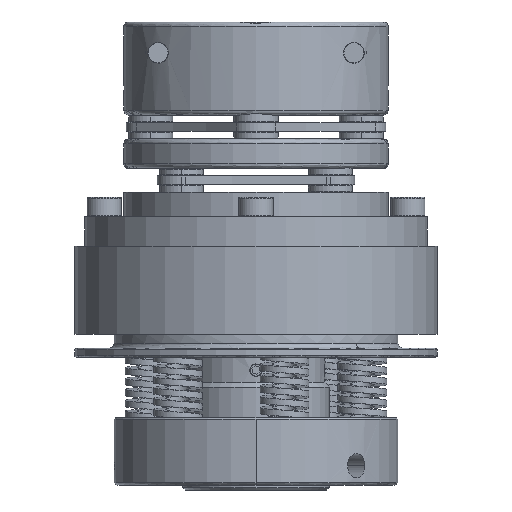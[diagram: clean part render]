
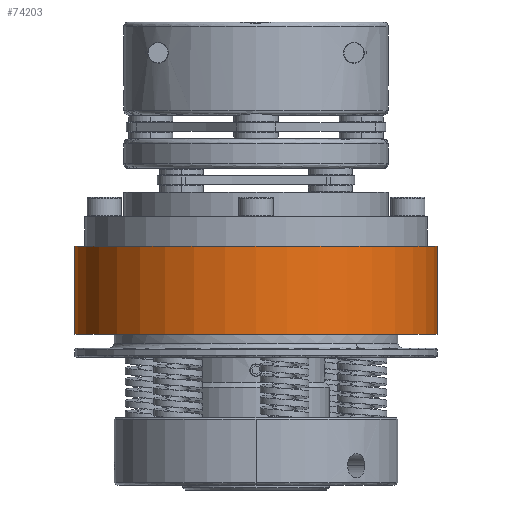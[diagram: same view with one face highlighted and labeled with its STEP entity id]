
A CAD part, front view. The second image highlights one B-rep face of the part: STEP entity #74203.
In plain terms, the highlighted cylindrical face has radius 37 mm (diameter 74 mm), a partial arc.
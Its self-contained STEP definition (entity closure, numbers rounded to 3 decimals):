
#653 = VERTEX_POINT ( 'NONE', #56680 ) ;
#733 = VECTOR ( 'NONE', #67343, 1000. ) ;
#2143 = EDGE_CURVE ( 'NONE', #22245, #653, #31579, .T. ) ;
#3413 = CARTESIAN_POINT ( 'NONE',  ( 36.58, 0.175, 28.801 ) ) ;
#5539 = AXIS2_PLACEMENT_3D ( 'NONE', #61520, #26437, #8957 ) ;
#8957 = DIRECTION ( 'NONE',  ( 1., 0., 0. ) ) ;
#9148 = LINE ( 'NONE', #43959, #733 ) ;
#10219 = ORIENTED_EDGE ( 'NONE', *, *, #72081, .T. ) ;
#10911 = DIRECTION ( 'NONE',  ( 0., 0., -1. ) ) ;
#11517 = CARTESIAN_POINT ( 'NONE',  ( 36.58, 0.175, 17.801 ) ) ;
#11722 = FACE_OUTER_BOUND ( 'NONE', #64543, .T. ) ;
#22245 = VERTEX_POINT ( 'NONE', #11517 ) ;
#23626 = CARTESIAN_POINT ( 'NONE',  ( 36.58, 0.175, -0.199 ) ) ;
#25971 = LINE ( 'NONE', #3413, #56634 ) ;
#26412 = AXIS2_PLACEMENT_3D ( 'NONE', #59805, #47355, #70746 ) ;
#26437 = DIRECTION ( 'NONE',  ( 0., 0., 1. ) ) ;
#29374 = ORIENTED_EDGE ( 'NONE', *, *, #62124, .F. ) ;
#31579 = CIRCLE ( 'NONE', #62967, 37. ) ;
#32898 = CARTESIAN_POINT ( 'NONE',  ( -37.42, 0.175, -0.199 ) ) ;
#35826 = VERTEX_POINT ( 'NONE', #23626 ) ;
#38585 = DIRECTION ( 'NONE',  ( 0., 0., 1. ) ) ;
#43959 = CARTESIAN_POINT ( 'NONE',  ( -37.42, 0.175, 28.801 ) ) ;
#46498 = ORIENTED_EDGE ( 'NONE', *, *, #61698, .T. ) ;
#47355 = DIRECTION ( 'NONE',  ( 0., 0., 1. ) ) ;
#47397 = VERTEX_POINT ( 'NONE', #32898 ) ;
#53710 = ORIENTED_EDGE ( 'NONE', *, *, #2143, .T. ) ;
#54712 = CIRCLE ( 'NONE', #26412, 37. ) ;
#56634 = VECTOR ( 'NONE', #38585, 1000. ) ;
#56680 = CARTESIAN_POINT ( 'NONE',  ( -37.42, 0.175, 17.801 ) ) ;
#58509 = DIRECTION ( 'NONE',  ( 1., 0., 0. ) ) ;
#59805 = CARTESIAN_POINT ( 'NONE',  ( -0.42, 0.175, -0.199 ) ) ;
#61520 = CARTESIAN_POINT ( 'NONE',  ( -0.42, 0.175, 28.801 ) ) ;
#61698 = EDGE_CURVE ( 'NONE', #35826, #22245, #25971, .T. ) ;
#62124 = EDGE_CURVE ( 'NONE', #47397, #653, #9148, .T. ) ;
#62967 = AXIS2_PLACEMENT_3D ( 'NONE', #75454, #10911, #58509 ) ;
#64543 = EDGE_LOOP ( 'NONE', ( #29374, #10219, #46498, #53710 ) ) ;
#67343 = DIRECTION ( 'NONE',  ( 0., 0., 1. ) ) ;
#70746 = DIRECTION ( 'NONE',  ( 1., 0., 0. ) ) ;
#72081 = EDGE_CURVE ( 'NONE', #47397, #35826, #54712, .T. ) ;
#73134 = CYLINDRICAL_SURFACE ( 'NONE', #5539, 37. ) ;
#74203 = ADVANCED_FACE ( 'NONE', ( #11722 ), #73134, .T. ) ;
#75454 = CARTESIAN_POINT ( 'NONE',  ( -0.42, 0.175, 17.801 ) ) ;
